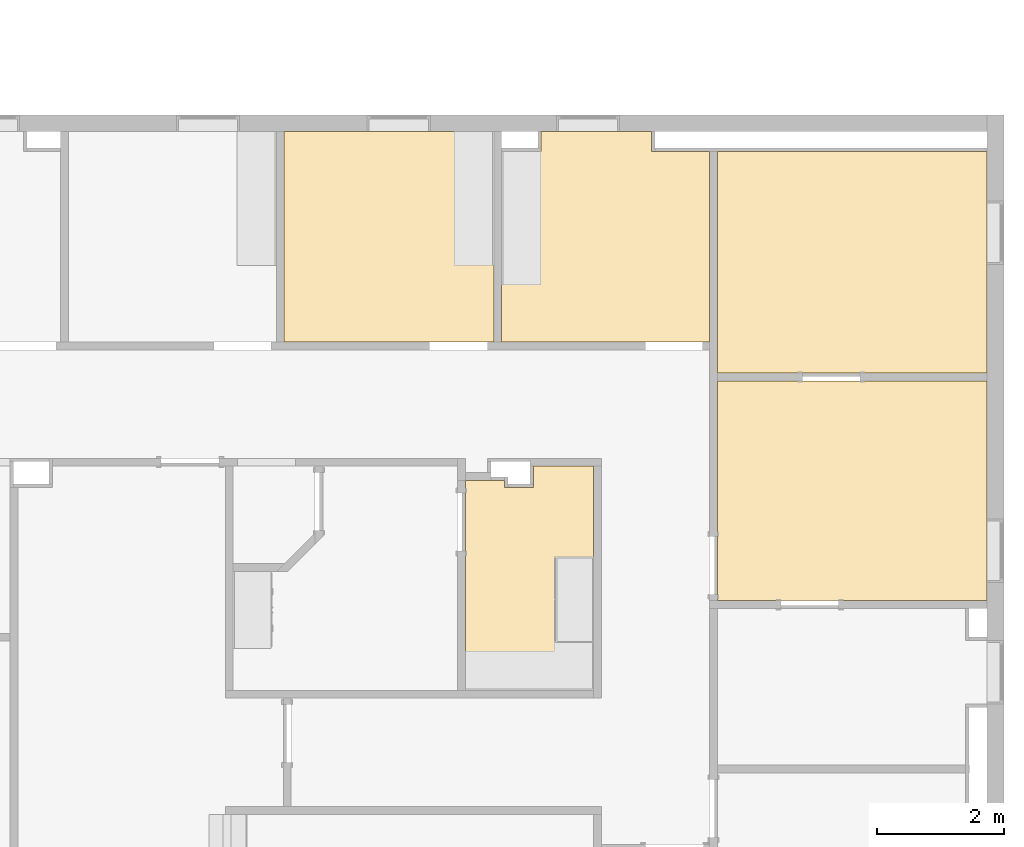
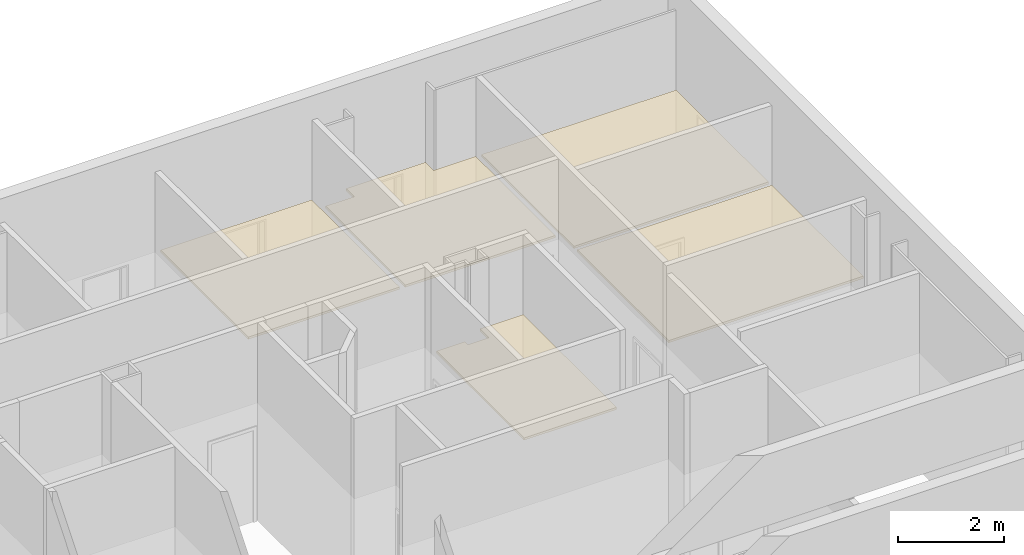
# One storey, part 30 of 45: 5 coverings.
"""IFC2X3 building model written with IfcOpenShell, lengths in metres."""

from ifc_helpers import new_model, entity, si_unit, converted_unit, frame, origin, place, context, project, spatial, face_set, surface_model, material, layer, layer_set, layer_usage, element, save


model = new_model("IFC2X3")

# Units and contexts
model_context = context("Model", 3, precision=1e-09, world=origin())
plan_context = context("Plan", 3, precision=1e-09, world=origin())
ifc_project = project(units=[si_unit("LENGTHUNIT", "METRE"), si_unit("AREAUNIT", "SQUARE_METRE"), si_unit("VOLUMEUNIT", "CUBIC_METRE"), converted_unit("PLANEANGLEUNIT", "DEGREE", entity("IfcRatioMeasure", 0.01745329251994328), si_unit("PLANEANGLEUNIT", "RADIAN"), dimensions=[0, 0, 0, 0, 0, 0, 0]), si_unit("TIMEUNIT", "SECOND")], contexts=[model_context, plan_context])

# Site, building, storey
site_placement = place(None, origin())
site = spatial("IfcSite", under=ifc_project, at=site_placement, Name="Default", CompositionType="ELEMENT")
building_placement = place(site_placement, origin())
building = spatial("IfcBuilding", under=site, at=building_placement, CompositionType="ELEMENT")
storey_placement = place(building_placement, frame((0.0, 0.0, 4.570000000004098)))
storey = spatial("IfcBuildingStorey", under=building, at=storey_placement, Name="Second Floor", CompositionType="ELEMENT", Elevation=4.570000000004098)

# Coverings
ifc_material_1 = material(Name="Default")
ifc_layer_1 = layer(ifc_material_1, 0.03599999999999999)
ifc_material_2 = material(Name="Ceiling Tile 600 x 600")
ifc_layer_2 = layer(ifc_material_2, 0.016)
ifc_layer_set = layer_set([ifc_layer_1, ifc_layer_2], Name="Compound Ceiling:ACT 600 x 600mm Grid")
ifc_layer_usage = layer_usage(ifc_layer_set, "AXIS3", "NEGATIVE", 0.0)
covering_1_placement = place(storey_placement, origin())
element("IfcCovering", 1, at=covering_1_placement, inside=storey, material=ifc_layer_usage, Name="Compound Ceiling:ACT 600 x 600mm Grid", ObjectType="Compound Ceiling:ACT 600 x 600mm Grid", PredefinedType="CEILING", context=model_context, shape_type="SurfaceModel", body=[
    surface_model("IfcFaceBasedSurfaceModel", [(-6.93100000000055, 50.20299999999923, 2.732000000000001), (-6.93100000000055, 49.89443871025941, 2.732000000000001), (-7.556000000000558, 49.89443871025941, 2.732000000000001), (-7.556000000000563, 46.87843871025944, 2.732000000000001), (-5.286600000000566, 46.87843871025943, 2.732000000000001), (-4.385984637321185, 46.87843871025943, 2.732000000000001), (-4.270000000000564, 46.87843871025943, 2.732000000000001), (-4.270000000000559, 49.89443871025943, 2.732000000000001), (-5.190000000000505, 49.89443871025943, 2.732000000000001), (-5.190000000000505, 50.20299999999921, 2.732000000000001), (-6.931000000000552, 50.20299999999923, 2.680000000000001), (-5.190000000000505, 50.20299999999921, 2.680000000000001), (-5.190000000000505, 49.89443871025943, 2.680000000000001), (-4.270000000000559, 49.89443871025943, 2.680000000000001), (-4.270000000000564, 46.87843871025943, 2.680000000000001), (-4.385984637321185, 46.87843871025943, 2.680000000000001), (-5.286600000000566, 46.87843871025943, 2.680000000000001), (-7.556000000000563, 46.87843871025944, 2.680000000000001), (-7.556000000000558, 49.89443871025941, 2.680000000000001), (-6.93100000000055, 49.89443871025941, 2.680000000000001)], [face_set([[[0, 1, 2, 3, 4, 5, 6, 7, 8, 9]], [[10, 11, 12, 13, 14, 15, 16, 17, 18, 19]], [[2, 18, 19, 1]], [[3, 17, 18, 2]], [[4, 3, 17, 16]], [[5, 4, 16, 15]], [[6, 5, 15, 14]], [[7, 6, 14, 13]], [[8, 12, 13, 7]], [[9, 8, 12, 11]], [[0, 10, 11, 9]], [[1, 19, 10, 0]]])]),
])
covering_2_placement = place(storey_placement, origin())
element("IfcCovering", 2, at=covering_2_placement, inside=storey, material=ifc_layer_usage, Name="Compound Ceiling:ACT 600 x 600mm Grid", ObjectType="Compound Ceiling:ACT 600 x 600mm Grid", PredefinedType="CEILING", context=model_context, shape_type="SurfaceModel", body=[
    surface_model("IfcFaceBasedSurfaceModel", [(-7.510000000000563, 44.69543885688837, 2.732000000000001), (-7.510000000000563, 44.58443871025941, 2.732000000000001), (-7.050000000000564, 44.58443871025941, 2.732000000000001), (-7.050000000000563, 44.9204387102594, 2.732000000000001), (-6.10400000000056, 44.9204387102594, 2.732000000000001), (-6.104000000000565, 41.37843871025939, 2.732000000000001), (-8.130000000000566, 41.3784387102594, 2.732000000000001), (-8.13000000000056, 44.69543885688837, 2.732000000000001), (-7.510000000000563, 44.69543885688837, 2.680000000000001), (-8.13000000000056, 44.69543885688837, 2.680000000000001), (-8.130000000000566, 41.3784387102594, 2.680000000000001), (-6.104000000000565, 41.37843871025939, 2.680000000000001), (-6.10400000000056, 44.9204387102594, 2.680000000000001), (-7.050000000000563, 44.9204387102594, 2.680000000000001), (-7.050000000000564, 44.58443871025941, 2.680000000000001), (-7.510000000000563, 44.58443871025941, 2.680000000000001)], [face_set([[[0, 1, 2, 3, 4, 5, 6, 7]], [[8, 9, 10, 11, 12, 13, 14, 15]], [[7, 9, 8, 0]], [[6, 10, 9, 7]], [[5, 6, 10, 11]], [[4, 5, 11, 12]], [[3, 13, 12, 4]], [[2, 14, 13, 3]], [[1, 15, 14, 2]], [[0, 1, 15, 8]]])]),
])
covering_3_placement = place(storey_placement, origin())
element("IfcCovering", 3, at=covering_3_placement, inside=storey, material=ifc_layer_usage, Name="Compound Ceiling:ACT 600 x 600mm Grid", ObjectType="Compound Ceiling:ACT 600 x 600mm Grid", PredefinedType="CEILING", context=model_context, shape_type="SurfaceModel", body=[
    surface_model("IfcFaceBasedSurfaceModel", [(-4.146000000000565, 46.26443871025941, 2.732000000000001), (0.1129999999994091, 46.26443871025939, 2.732000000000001), (0.1129999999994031, 42.79443871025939, 2.732000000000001), (-4.14600000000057, 42.79443871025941, 2.732000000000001), (-4.146000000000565, 46.26443871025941, 2.680000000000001), (0.1129999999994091, 46.26443871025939, 2.680000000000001), (0.1129999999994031, 42.79443871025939, 2.680000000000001), (-4.14600000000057, 42.79443871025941, 2.680000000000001)], [face_set([[[0, 1, 2, 3]], [[4, 5, 6, 7]], [[3, 7, 4, 0]], [[2, 3, 7, 6]], [[1, 2, 6, 5]], [[0, 4, 5, 1]]])]),
])
covering_4_placement = place(storey_placement, origin())
element("IfcCovering", 4, at=covering_4_placement, inside=storey, material=ifc_layer_usage, Name="Compound Ceiling:ACT 600 x 600mm Grid", ObjectType="Compound Ceiling:ACT 600 x 600mm Grid", PredefinedType="CEILING", context=model_context, shape_type="SurfaceModel", body=[
    surface_model("IfcFaceBasedSurfaceModel", [(0.1129999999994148, 49.89443871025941, 2.732000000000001), (0.1129999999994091, 46.3884387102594, 2.732000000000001), (-4.146000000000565, 46.38843871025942, 2.732000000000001), (-4.146000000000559, 49.89443871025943, 2.732000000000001), (0.1129999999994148, 49.89443871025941, 2.680000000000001), (0.1129999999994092, 46.3884387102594, 2.680000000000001), (-4.146000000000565, 46.38843871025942, 2.680000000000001), (-4.146000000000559, 49.89443871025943, 2.680000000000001)], [face_set([[[0, 1, 2, 3]], [[4, 5, 6, 7]], [[2, 6, 7, 3]], [[1, 2, 6, 5]], [[0, 1, 5, 4]], [[3, 7, 4, 0]]])]),
])
covering_5_placement = place(storey_placement, origin())
element("IfcCovering", 5, at=covering_5_placement, inside=storey, material=ifc_layer_usage, Name="Compound Ceiling:ACT 600 x 600mm Grid", ObjectType="Compound Ceiling:ACT 600 x 600mm Grid", PredefinedType="CEILING", context=model_context, shape_type="SurfaceModel", body=[
    surface_model("IfcFaceBasedSurfaceModel", [(-10.99000000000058, 46.87843871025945, 2.732000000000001), (-10.99000000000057, 50.20299999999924, 2.732000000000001), (-7.680000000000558, 50.20299999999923, 2.732000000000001), (-7.680000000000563, 46.87843871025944, 2.732000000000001), (-7.780000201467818, 46.87843871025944, 2.732000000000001), (-8.696600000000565, 46.87843871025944, 2.732000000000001), (-10.99000000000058, 46.87843871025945, 2.680000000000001), (-10.99000000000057, 50.20299999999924, 2.680000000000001), (-7.680000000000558, 50.20299999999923, 2.680000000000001), (-7.680000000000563, 46.87843871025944, 2.680000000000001), (-7.780000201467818, 46.87843871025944, 2.680000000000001), (-8.696600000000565, 46.87843871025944, 2.680000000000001)], [face_set([[[0, 1, 2, 3, 4, 5]], [[6, 7, 8, 9, 10, 11]], [[5, 0, 6, 11]], [[4, 5, 11, 10]], [[3, 4, 10, 9]], [[2, 3, 9, 8]], [[1, 7, 8, 2]], [[0, 6, 7, 1]]])]),
])

save(model, "model.ifc")
